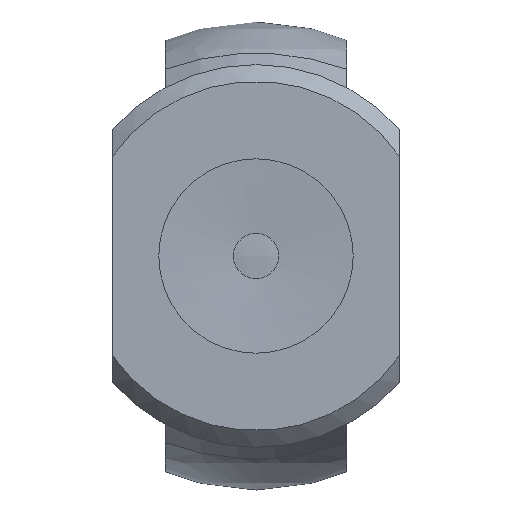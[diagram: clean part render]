
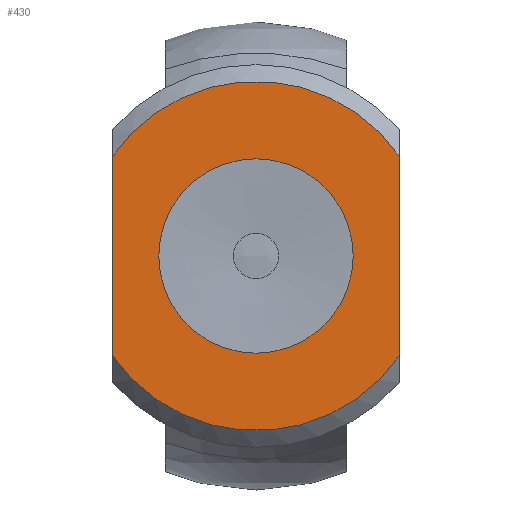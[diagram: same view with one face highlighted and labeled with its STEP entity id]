
A CAD part, front view. The second image highlights one B-rep face of the part: STEP entity #430.
In plain terms, the highlighted planar face has unit normal (0, -1, 0).
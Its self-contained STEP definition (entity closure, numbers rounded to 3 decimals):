
#60=CIRCLE('',#474,25.);
#65=CIRCLE('',#488,25.);
#66=CIRCLE('',#490,13.918);
#139=ORIENTED_EDGE('',*,*,#230,.T.);
#140=ORIENTED_EDGE('',*,*,#229,.F.);
#141=ORIENTED_EDGE('',*,*,#220,.T.);
#142=ORIENTED_EDGE('',*,*,#212,.F.);
#143=ORIENTED_EDGE('',*,*,#231,.T.);
#212=EDGE_CURVE('',#261,#262,#60,.T.);
#220=EDGE_CURVE('',#266,#262,#296,.T.);
#229=EDGE_CURVE('',#266,#271,#65,.T.);
#230=EDGE_CURVE('',#261,#271,#299,.T.);
#231=EDGE_CURVE('',#272,#272,#66,.T.);
#261=VERTEX_POINT('',#726);
#262=VERTEX_POINT('',#728);
#266=VERTEX_POINT('',#746);
#271=VERTEX_POINT('',#770);
#272=VERTEX_POINT('',#775);
#296=LINE('',#745,#314);
#299=LINE('',#773,#317);
#314=VECTOR('',#580,1000.);
#317=VECTOR('',#597,1000.);
#335=EDGE_LOOP('',(#139,#140,#141,#142));
#336=EDGE_LOOP('',(#143));
#379=FACE_BOUND('',#335,.T.);
#380=FACE_BOUND('',#336,.T.);
#412=PLANE('',#489);
#430=ADVANCED_FACE('',(#379,#380),#412,.T.);
#474=AXIS2_PLACEMENT_3D('',#727,#560,#561);
#488=AXIS2_PLACEMENT_3D('',#771,#593,#594);
#489=AXIS2_PLACEMENT_3D('',#772,#595,#596);
#490=AXIS2_PLACEMENT_3D('',#774,#598,#599);
#560=DIRECTION('',(0.,1.,0.));
#561=DIRECTION('',(1.,0.,0.));
#580=DIRECTION('',(0.,0.,1.));
#593=DIRECTION('',(0.,1.,0.));
#594=DIRECTION('',(1.,0.,0.));
#595=DIRECTION('',(0.,-1.,0.));
#596=DIRECTION('',(-1.,0.,0.));
#597=DIRECTION('',(0.,0.,-1.));
#598=DIRECTION('',(0.,1.,0.));
#599=DIRECTION('',(1.,0.,0.));
#726=CARTESIAN_POINT('',(-20.5,-110.,14.309));
#727=CARTESIAN_POINT('',(0.,-110.,0.));
#728=CARTESIAN_POINT('',(20.5,-110.,14.309));
#745=CARTESIAN_POINT('',(20.5,-110.,0.));
#746=CARTESIAN_POINT('',(20.5,-110.,-14.309));
#770=CARTESIAN_POINT('',(-20.5,-110.,-14.309));
#771=CARTESIAN_POINT('',(0.,-110.,0.));
#772=CARTESIAN_POINT('',(12.5,-110.,0.));
#773=CARTESIAN_POINT('',(-20.5,-110.,0.));
#774=CARTESIAN_POINT('',(0.,-110.,0.));
#775=CARTESIAN_POINT('',(13.918,-110.,0.));
